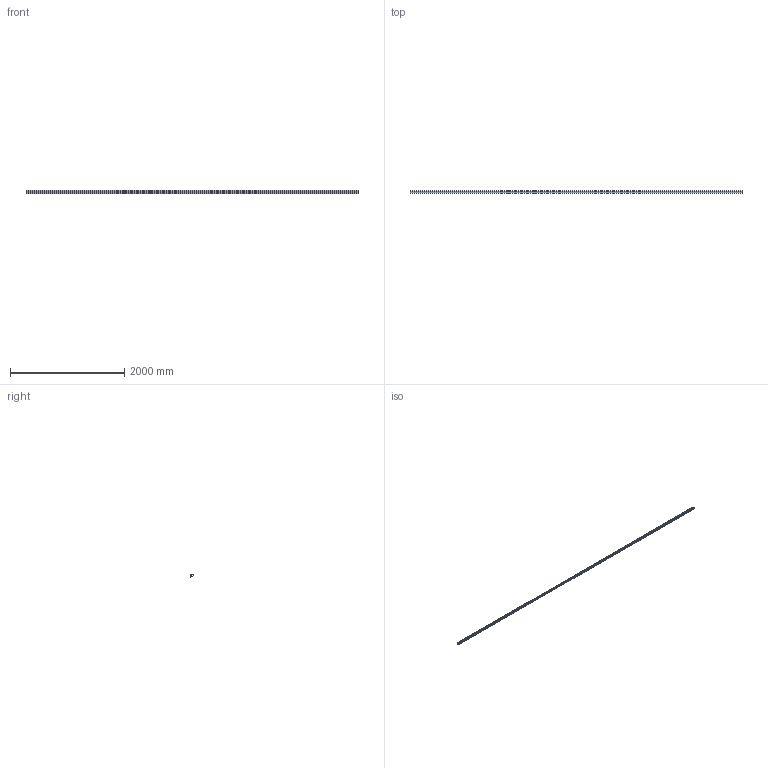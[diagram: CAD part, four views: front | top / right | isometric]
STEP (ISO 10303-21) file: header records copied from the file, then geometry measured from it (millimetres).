
FILE_DESCRIPTION(('STEP AP242'),'1');
FILE_NAME('OPO_51.047.23_volu_schn_3d.stp','2026-03-17T13:40:08',(' '),(' '),'Spatial InterOp 3D',' ',' ');
FILE_SCHEMA(('AP242_MANAGED_MODEL_BASED_3D_ENGINEERING_MIM_LF {1 0 10303 442 1 1 4}'));
Length unit declared in the file: millimetre
Products named in the file (1): 1
Bounding box: 5800 x 42.5 x 53 mm (x, y, z)
Volume: 1629559.8 mm3; surface area: 1985125.3 mm2
Topology: 1 solids, 1 shells, 74 faces, 557 edges, 844 vertices
Faces by surface type: plane 54, cylinder 20
Entity records: 7291 total; most frequent: DIRECTION 831, CARTESIAN_POINT 767, LINE 435, VECTOR 435, STYLED_ITEM 429, PRESENTATION_STYLE_ASSIGNMENT 429, COLOUR_RGB 429, ORIENTED_EDGE 404
